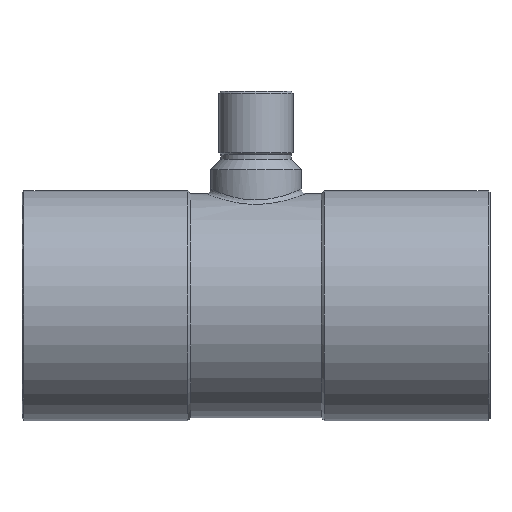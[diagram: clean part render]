
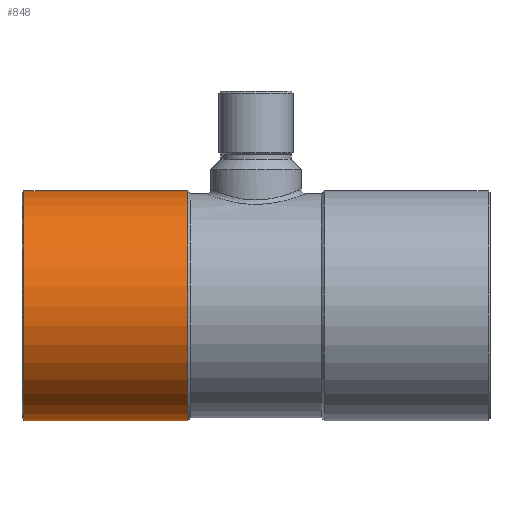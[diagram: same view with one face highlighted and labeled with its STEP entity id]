
A CAD part, top view. The second image highlights one B-rep face of the part: STEP entity #848.
In plain terms, the highlighted cylindrical face has radius 11.8 mm (diameter 23.6 mm), a partial arc.
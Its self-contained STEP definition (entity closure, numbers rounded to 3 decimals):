
#258=CARTESIAN_POINT('',(-7.,11.8,0.0));
#259=VERTEX_POINT('',#258);
#266=CARTESIAN_POINT('',(-7.,-11.8,0.));
#267=VERTEX_POINT('',#266);
#268=CARTESIAN_POINT('',(-7.,0.0,0.0));
#269=DIRECTION('',(1.0,0.0,0.0));
#270=DIRECTION('',(0.0,1.0,0.0));
#271=AXIS2_PLACEMENT_3D('',#268,#269,#270);
#272=CIRCLE('',#271,11.8);
#273=EDGE_CURVE('',#259,#267,#272,.T.);
#817=CARTESIAN_POINT('',(-15.5,0.0,0.0));
#818=DIRECTION('',(1.0,0.0,0.0));
#819=DIRECTION('',(0.0,1.0,0.0));
#820=AXIS2_PLACEMENT_3D('',#817,#818,#819);
#821=CYLINDRICAL_SURFACE('',#820,11.8);
#822=CARTESIAN_POINT('',(-23.8,11.8,0.));
#823=VERTEX_POINT('',#822);
#824=CARTESIAN_POINT('',(-23.8,11.8,0.));
#825=DIRECTION('',(1.0,0.0,0.0));
#826=VECTOR('',#825,16.8);
#827=LINE('',#824,#826);
#828=EDGE_CURVE('',#823,#259,#827,.T.);
#829=ORIENTED_EDGE('',*,*,#828,.F.);
#830=CARTESIAN_POINT('',(-23.8,-11.8,0.));
#831=VERTEX_POINT('',#830);
#832=CARTESIAN_POINT('',(-23.8,0.0,0.0));
#833=DIRECTION('',(-1.0,0.0,0.0));
#834=DIRECTION('',(0.0,-1.0,0.0));
#835=AXIS2_PLACEMENT_3D('',#832,#833,#834);
#836=CIRCLE('',#835,11.8);
#837=EDGE_CURVE('',#831,#823,#836,.T.);
#838=ORIENTED_EDGE('',*,*,#837,.F.);
#839=CARTESIAN_POINT('',(-7.,-11.8,0.));
#840=DIRECTION('',(-1.0,0.0,0.0));
#841=VECTOR('',#840,16.8);
#842=LINE('',#839,#841);
#843=EDGE_CURVE('',#267,#831,#842,.T.);
#844=ORIENTED_EDGE('',*,*,#843,.F.);
#845=ORIENTED_EDGE('',*,*,#273,.F.);
#846=EDGE_LOOP('',(#829,#838,#844,#845));
#847=FACE_OUTER_BOUND('',#846,.T.);
#848=ADVANCED_FACE('',(#847),#821,.T.);
